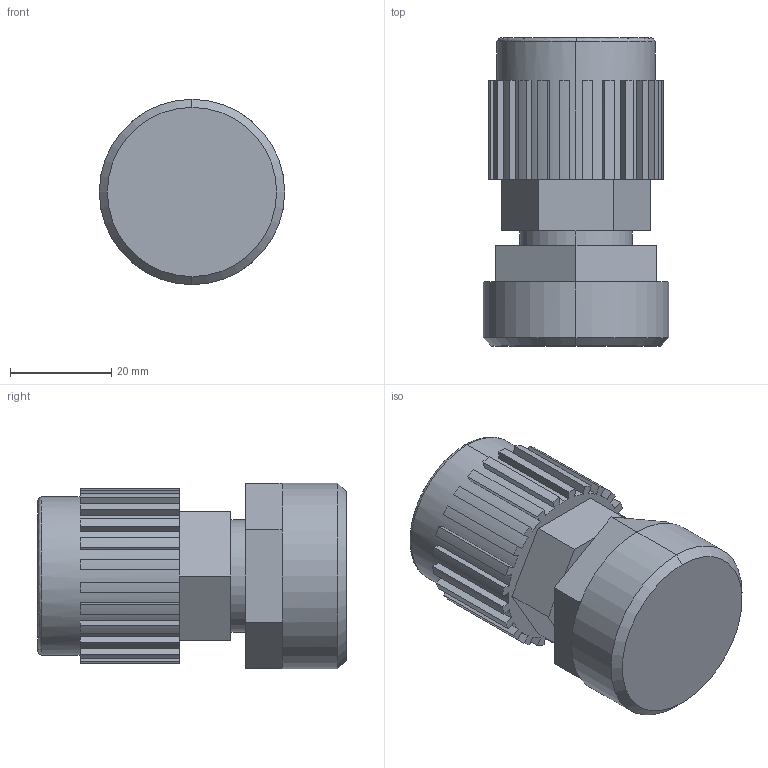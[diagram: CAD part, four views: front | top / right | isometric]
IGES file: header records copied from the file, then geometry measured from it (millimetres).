
Start section: SolidWorks IGES file using analytic representation for surfaces
Global section: file name: S:\Product Visuals\REVISED-30L-TOP-MOUNT-FITTINGS\IGS\top-straight-outlet-only\pillar-s-300\08-pillar-s-300-with-top-mount-adapter.IGS; native system: SolidWorks 2012; preprocessor: SolidWorks 2012; author: rachel.dressel; date: 121127.161222; units: inch
Bounding box: 36.6 x 60.83 x 36.66 mm (x, y, z)
Volume: 47740.2 mm3; surface area: 11045.7 mm2
Topology: 1 solids, 1 shells, 140 faces, 384 edges, 250 vertices
Faces by surface type: plane 102, revolution 38
